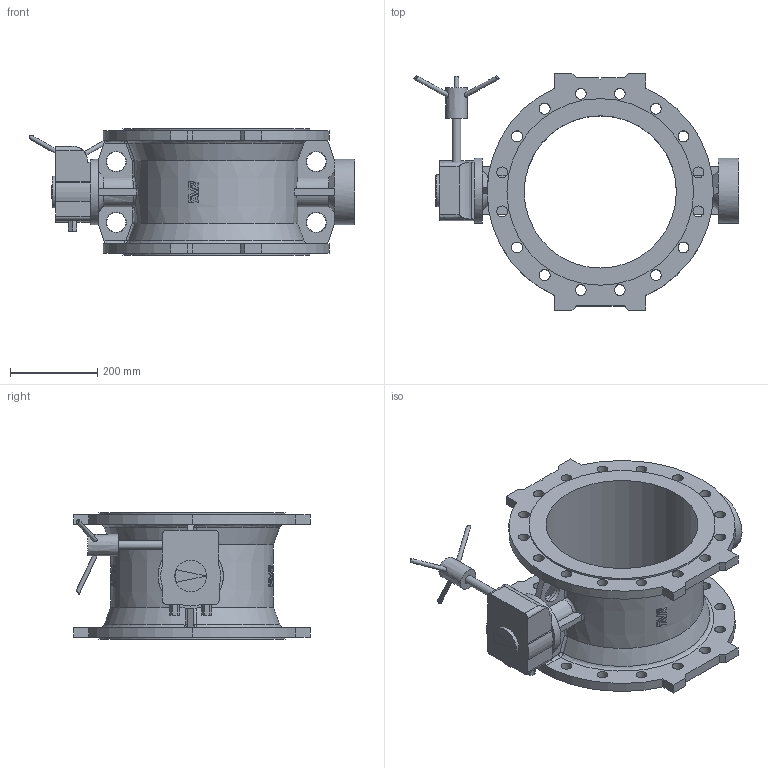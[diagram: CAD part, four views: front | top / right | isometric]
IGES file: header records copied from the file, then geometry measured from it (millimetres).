
Start section: SolidWorks IGES file using analytic representation for surfaces
Global section: file name: \\avksan2\techshare\PBM outline export from Enovia\O_756_1_DN350_0XX00_AA0_igs.igs; native system: SolidWorks 2012; preprocessor: SolidWorks 2012; author: pbm; date: 160304.123813; units: millimetre
Bounding box: 747.59 x 544 x 290 mm (x, y, z)
Surface area: 1396915.2 mm2 (no closed solid volume)
Topology: 0 solids, 0 shells, 380 faces, 3054 edges, 2963 vertices
Faces by surface type: bspline 265, revolution 115
